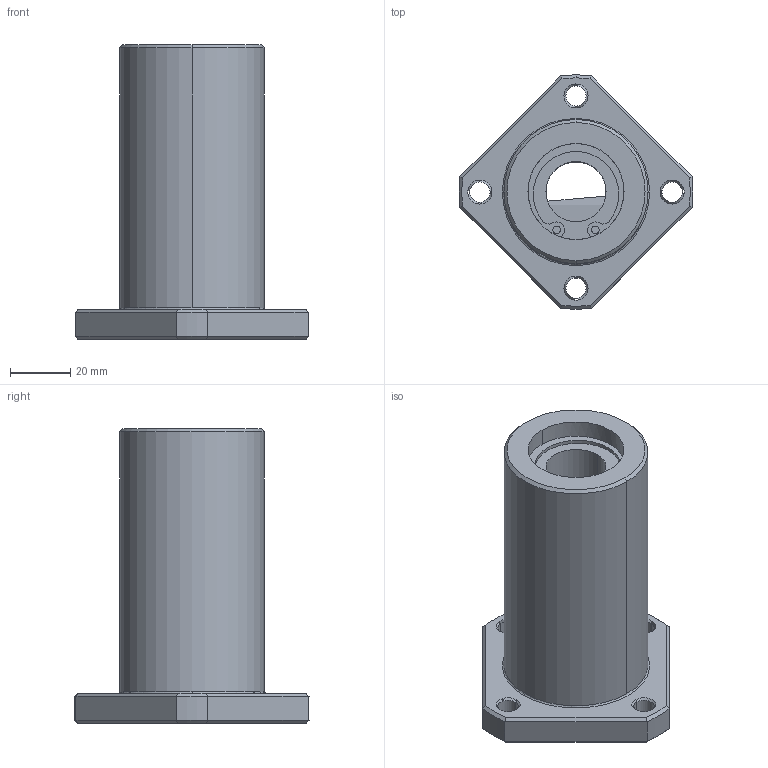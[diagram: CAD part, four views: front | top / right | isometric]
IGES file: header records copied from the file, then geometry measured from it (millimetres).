
Start section: 3D InterOp IGES (Version 21 0 1), Spatial Corp. Copyright (c) 1999-2007.
Global section: file name: LCF-20AVUU.igs; native system: Spatial Corp.; preprocessor: 3D InterOp GENERIC/IGES 3.0; author: Noname; organization: Noname; date: 20220517.163105; units: millimetre
Bounding box: 77.92 x 77.96 x 98 mm (x, y, z)
Surface area: 29289.3 mm2 (no closed solid volume)
Topology: 0 solids, 0 shells, 109 faces, 532 edges, 532 vertices
Faces by surface type: revolution 81, extrusion 28
